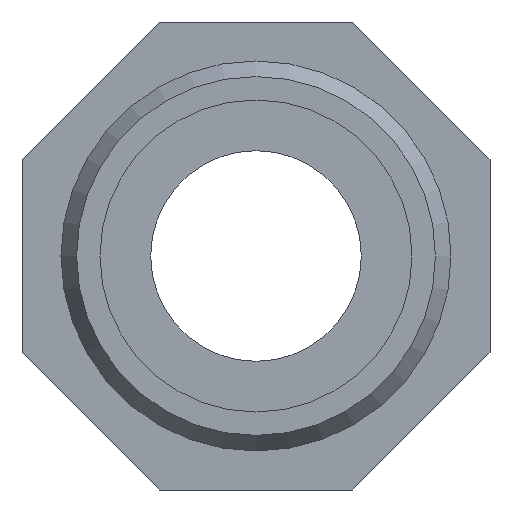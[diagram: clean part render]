
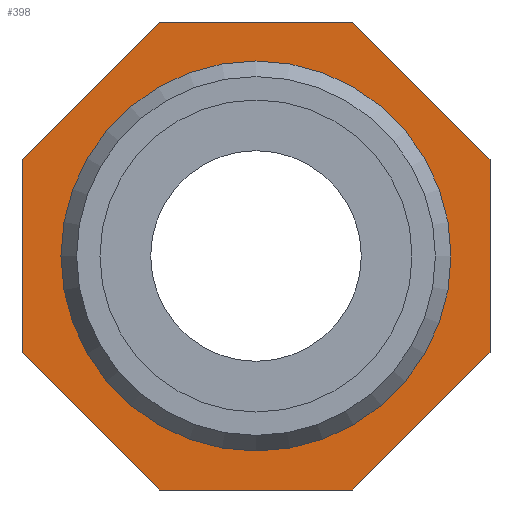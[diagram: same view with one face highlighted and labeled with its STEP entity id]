
A CAD part, front view. The second image highlights one B-rep face of the part: STEP entity #398.
In plain terms, the highlighted planar face has unit normal (0, -1, 0).
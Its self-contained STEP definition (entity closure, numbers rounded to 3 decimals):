
#18=LINE('',#3636,#45);
#19=LINE('',#3638,#46);
#20=LINE('',#3640,#47);
#21=LINE('',#3642,#48);
#22=LINE('',#3644,#49);
#23=LINE('',#3646,#50);
#24=LINE('',#3648,#51);
#25=LINE('',#3649,#52);
#45=VECTOR('',#499,12.426);
#46=VECTOR('',#500,12.426);
#47=VECTOR('',#501,12.426);
#48=VECTOR('',#502,12.426);
#49=VECTOR('',#503,12.426);
#50=VECTOR('',#504,12.426);
#51=VECTOR('',#505,12.426);
#52=VECTOR('',#506,12.426);
#90=PLANE('',#434);
#114=FACE_BOUND('',#168,.T.);
#132=FACE_OUTER_BOUND('',#167,.T.);
#167=EDGE_LOOP('',(#327,#328,#329,#330,#331,#332,#333,#334));
#168=EDGE_LOOP('',(#335));
#181=CIRCLE('',#414,12.5);
#194=VERTEX_POINT('',#548);
#212=VERTEX_POINT('',#3634);
#213=VERTEX_POINT('',#3635);
#214=VERTEX_POINT('',#3637);
#215=VERTEX_POINT('',#3639);
#216=VERTEX_POINT('',#3641);
#217=VERTEX_POINT('',#3643);
#218=VERTEX_POINT('',#3645);
#219=VERTEX_POINT('',#3647);
#230=EDGE_CURVE('',#194,#194,#181,.T.);
#255=EDGE_CURVE('',#212,#213,#18,.T.);
#256=EDGE_CURVE('',#213,#214,#19,.T.);
#257=EDGE_CURVE('',#214,#215,#20,.T.);
#258=EDGE_CURVE('',#215,#216,#21,.T.);
#259=EDGE_CURVE('',#216,#217,#22,.T.);
#260=EDGE_CURVE('',#217,#218,#23,.T.);
#261=EDGE_CURVE('',#218,#219,#24,.T.);
#262=EDGE_CURVE('',#219,#212,#25,.T.);
#327=ORIENTED_EDGE('',*,*,#255,.T.);
#328=ORIENTED_EDGE('',*,*,#256,.T.);
#329=ORIENTED_EDGE('',*,*,#257,.T.);
#330=ORIENTED_EDGE('',*,*,#258,.T.);
#331=ORIENTED_EDGE('',*,*,#259,.T.);
#332=ORIENTED_EDGE('',*,*,#260,.T.);
#333=ORIENTED_EDGE('',*,*,#261,.T.);
#334=ORIENTED_EDGE('',*,*,#262,.T.);
#335=ORIENTED_EDGE('',*,*,#230,.T.);
#398=ADVANCED_FACE('',(#132,#114),#90,.T.);
#414=AXIS2_PLACEMENT_3D('',#549,#454,#455);
#434=AXIS2_PLACEMENT_3D('',#3633,#497,#498);
#454=DIRECTION('center_axis',(0.,1.,0.));
#455=DIRECTION('ref_axis',(-1.,0.,0.));
#497=DIRECTION('center_axis',(0.,-1.,0.));
#498=DIRECTION('ref_axis',(0.,0.,-1.));
#499=DIRECTION('',(-1.,0.,0.));
#500=DIRECTION('',(-0.707,0.,-0.707));
#501=DIRECTION('',(0.,0.,-1.));
#502=DIRECTION('',(0.707,0.,-0.707));
#503=DIRECTION('',(1.,0.,0.));
#504=DIRECTION('',(0.707,0.,0.707));
#505=DIRECTION('',(0.,0.,1.));
#506=DIRECTION('',(-0.707,0.,0.707));
#548=CARTESIAN_POINT('',(12.5,-6.,0.));
#549=CARTESIAN_POINT('Origin',(0.,-6.,0.));
#3633=CARTESIAN_POINT('Origin',(0.,-6.,0.));
#3634=CARTESIAN_POINT('',(6.213,-6.,15.));
#3635=CARTESIAN_POINT('',(-6.213,-6.,15.));
#3636=CARTESIAN_POINT('',(6.213,-6.,15.));
#3637=CARTESIAN_POINT('',(-15.,-6.,6.213));
#3638=CARTESIAN_POINT('',(-6.213,-6.,15.));
#3639=CARTESIAN_POINT('',(-15.,-6.,-6.213));
#3640=CARTESIAN_POINT('',(-15.,-6.,6.213));
#3641=CARTESIAN_POINT('',(-6.213,-6.,-15.));
#3642=CARTESIAN_POINT('',(-15.,-6.,-6.213));
#3643=CARTESIAN_POINT('',(6.213,-6.,-15.));
#3644=CARTESIAN_POINT('',(-6.213,-6.,-15.));
#3645=CARTESIAN_POINT('',(15.,-6.,-6.213));
#3646=CARTESIAN_POINT('',(6.213,-6.,-15.));
#3647=CARTESIAN_POINT('',(15.,-6.,6.213));
#3648=CARTESIAN_POINT('',(15.,-6.,-6.213));
#3649=CARTESIAN_POINT('',(15.,-6.,6.213));
